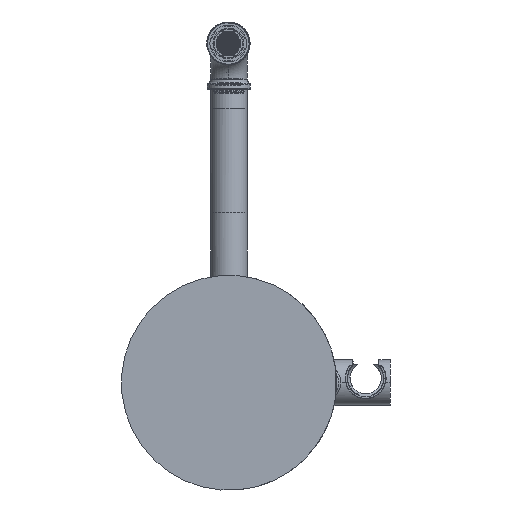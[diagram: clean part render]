
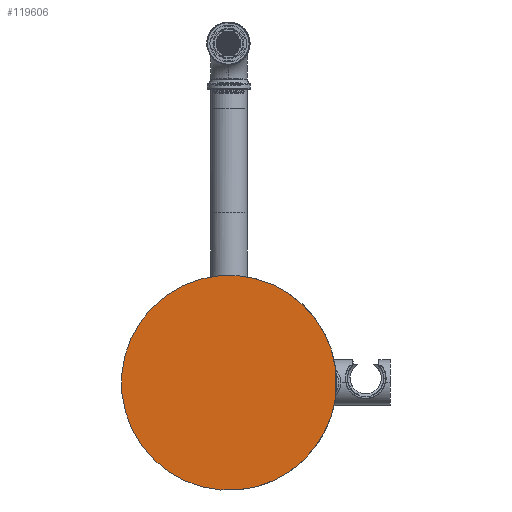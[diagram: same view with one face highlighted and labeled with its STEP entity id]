
A CAD part, front view. The second image highlights one B-rep face of the part: STEP entity #119606.
In plain terms, the highlighted planar face has unit normal (0, -1, 0).
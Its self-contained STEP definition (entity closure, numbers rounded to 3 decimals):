
#848 = ORIENTED_EDGE ( 'NONE', *, *, #65191, .F. ) ;
#2763 = AXIS2_PLACEMENT_3D ( 'NONE', #101747, #111946, #90810 ) ;
#8479 = LINE ( 'NONE', #28680, #11901 ) ;
#11709 = FACE_OUTER_BOUND ( 'NONE', #140402, .T. ) ;
#11877 = VERTEX_POINT ( 'NONE', #33412 ) ;
#11901 = VECTOR ( 'NONE', #51767, 1000. ) ;
#12757 = ORIENTED_EDGE ( 'NONE', *, *, #87034, .F. ) ;
#25755 = CIRCLE ( 'NONE', #2763, 70. ) ;
#28680 = CARTESIAN_POINT ( 'NONE',  ( 0., -833.13, 285.203 ) ) ;
#33273 = AXIS2_PLACEMENT_3D ( 'NONE', #114456, #70838, #48410 ) ;
#33412 = CARTESIAN_POINT ( 'NONE',  ( -63.933, -833.13, 273.853 ) ) ;
#35252 = VERTEX_POINT ( 'NONE', #118468 ) ;
#39343 = EDGE_CURVE ( 'NONE', #35252, #105696, #46826, .T. ) ;
#41764 = DIRECTION ( 'NONE',  ( 0., 0., 1. ) ) ;
#44878 = CARTESIAN_POINT ( 'NONE',  ( -139.192, -833.13, 285.203 ) ) ;
#46826 = CIRCLE ( 'NONE', #120950, 70. ) ;
#48410 = DIRECTION ( 'NONE',  ( 0., 0., 1. ) ) ;
#51767 = DIRECTION ( 'NONE',  ( 0., 0., 1. ) ) ;
#53066 = ORIENTED_EDGE ( 'NONE', *, *, #86786, .T. ) ;
#55753 = PLANE ( 'NONE',  #58289 ) ;
#58289 = AXIS2_PLACEMENT_3D ( 'NONE', #44878, #89035, #41764 ) ;
#61992 = CARTESIAN_POINT ( 'NONE',  ( 0., -833.13, 214.657 ) ) ;
#65191 = EDGE_CURVE ( 'NONE', #105696, #11877, #74664, .T. ) ;
#70838 = DIRECTION ( 'NONE',  ( 0., 1., 0. ) ) ;
#74082 = CARTESIAN_POINT ( 'NONE',  ( -69.192, -833.13, 204.051 ) ) ;
#74664 = CIRCLE ( 'NONE', #33273, 70. ) ;
#84042 = ORIENTED_EDGE ( 'NONE', *, *, #39343, .F. ) ;
#86267 = CARTESIAN_POINT ( 'NONE',  ( -74.451, -833.13, 134.249 ) ) ;
#86786 = EDGE_CURVE ( 'NONE', #35252, #113020, #8479, .T. ) ;
#87034 = EDGE_CURVE ( 'NONE', #11877, #113020, #25755, .T. ) ;
#89035 = DIRECTION ( 'NONE',  ( 0., 1., 0. ) ) ;
#90810 = DIRECTION ( 'NONE',  ( 0., 0., 1. ) ) ;
#95797 = DIRECTION ( 'NONE',  ( 0., 1., 0. ) ) ;
#101747 = CARTESIAN_POINT ( 'NONE',  ( -69.192, -833.13, 204.051 ) ) ;
#105696 = VERTEX_POINT ( 'NONE', #86267 ) ;
#111946 = DIRECTION ( 'NONE',  ( 0., 1., 0. ) ) ;
#113020 = VERTEX_POINT ( 'NONE', #61992 ) ;
#114456 = CARTESIAN_POINT ( 'NONE',  ( -69.192, -833.13, 204.051 ) ) ;
#118468 = CARTESIAN_POINT ( 'NONE',  ( 0., -833.13, 193.445 ) ) ;
#119606 = ADVANCED_FACE ( 'NONE', ( #11709 ), #55753, .F. ) ;
#120950 = AXIS2_PLACEMENT_3D ( 'NONE', #74082, #95797, #137896 ) ;
#137896 = DIRECTION ( 'NONE',  ( 0., 0., 1. ) ) ;
#140402 = EDGE_LOOP ( 'NONE', ( #53066, #12757, #848, #84042 ) ) ;
